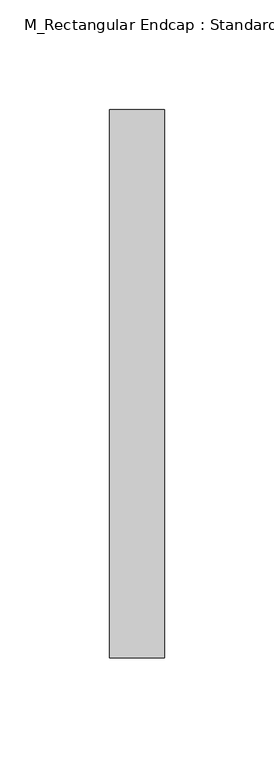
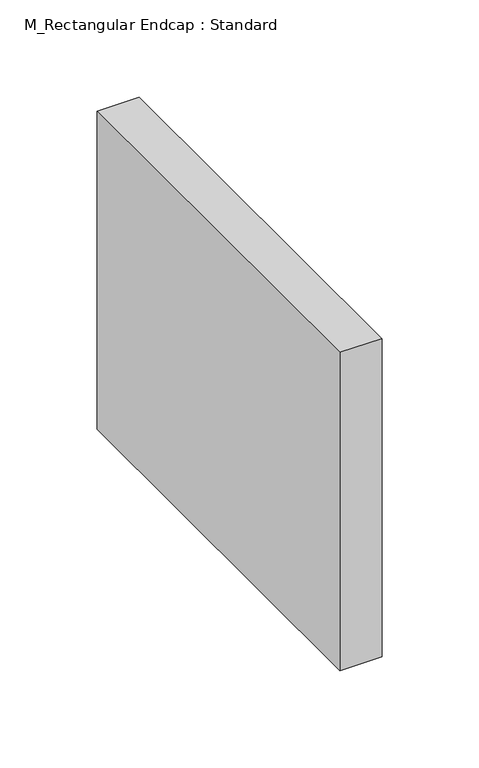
"""IFC4 building model written with IfcOpenShell, lengths in millimetres: duct fitting geometry, M_Rectangular Endcap : Standard."""

import ifcopenshell
import ifcopenshell.guid

model = None  # the IFC model being written
_history = None  # IfcOwnerHistory: only IFC2X3 demands one
_inside = {}  # id of a spatial element -> (the spatial element, [elements in it])
_under = {}  # id of a project, library or spatial element -> (it, [spatial elements below it])
_declared = {}  # id of a project -> (the project, [libraries it declares])
_typed = {}  # id of a type object -> (the type object, [elements of that type])
_made_of = {}  # id of a material, layer set ... -> (it, [elements and type objects made of it])


def new_model(schema):
    """Start an empty IFC model of exactly this schema.

    Asked for "IFC4X3", IfcOpenShell would pick the latest addendum, in which some entities
    have other attributes; the version numbers below select the first issue.
    IFC2X3 requires an IfcOwnerHistory on every rooted entity: one is made here for all.
    """
    global model, _history
    if schema == "IFC4X3":
        model = ifcopenshell.file(schema_version=(4, 3, 0, 0))
    else:
        model = ifcopenshell.file(schema=schema)
    _inside.clear()
    _under.clear()
    _declared.clear()
    _typed.clear()
    _made_of.clear()
    _history = None
    if model.schema == "IFC2X3":
        org = make("IfcOrganization", Name="unknown")
        user = make(
            "IfcPersonAndOrganization",
            ThePerson=make("IfcPerson", FamilyName="unknown"),
            TheOrganization=org,
        )
        app = make(
            "IfcApplication",
            ApplicationDeveloper=org,
            Version="unknown",
            ApplicationFullName="unknown",
            ApplicationIdentifier="unknown",
        )
        _history = make(
            "IfcOwnerHistory",
            OwningUser=user,
            OwningApplication=app,
            ChangeAction="ADDED",
            CreationDate=0,
        )
    return model


def make(cls, **values):
    """One entity of the class cls with the attributes given. An attribute that is None is left unset."""
    return model.create_entity(
        cls, **{name: value for name, value in values.items() if value is not None}
    )


def rooted(cls, **values):
    """An entity with a GlobalId (a new one), such as an element, a storey or a relation."""
    return make(cls, GlobalId=ifcopenshell.guid.new(), OwnerHistory=_history, **values)


def si_unit(unit_type, name, prefix=None):
    """IfcSIUnit, for example si_unit("LENGTHUNIT", "METRE", prefix="MILLI")."""
    return make("IfcSIUnit", UnitType=unit_type, Prefix=prefix, Name=name)


def assignment(units):
    """IfcUnitAssignment: the units of a project."""
    return None if units is None else make("IfcUnitAssignment", Units=units)


def point(xyz):
    """IfcCartesianPoint."""
    return None if xyz is None else make("IfcCartesianPoint", Coordinates=xyz)


def direction(xyz):
    """IfcDirection."""
    return None if xyz is None else make("IfcDirection", DirectionRatios=xyz)


def frame(location, z_axis=None, x_axis=None):
    """IfcAxis2Placement3D, a coordinate frame: its origin and axes. An axis left out is left unset."""
    return make(
        "IfcAxis2Placement3D",
        Location=point(location),
        Axis=direction(z_axis),
        RefDirection=direction(x_axis),
    )


def origin():
    """The frame at (0, 0, 0) with its axes left unset."""
    return frame((0.0, 0.0, 0.0))


def place(relative_to, where):
    """IfcLocalPlacement: puts the frame where relative to a parent placement (None: the world)."""
    return make(
        "IfcLocalPlacement", PlacementRelTo=relative_to, RelativePlacement=where
    )


def context(
    kind, dimensions, precision=None, world=None, true_north=None, identifier=None
):
    """IfcGeometricRepresentationContext, for example the 3D "Model" context."""
    return make(
        "IfcGeometricRepresentationContext",
        ContextIdentifier=identifier,
        ContextType=kind,
        CoordinateSpaceDimension=dimensions,
        Precision=precision,
        WorldCoordinateSystem=world,
        TrueNorth=true_north,
    )


def project(units=None, contexts=None):
    """IfcProject with its units and contexts."""
    return rooted(
        "IfcProject",
        Name="project",
        RepresentationContexts=contexts,
        UnitsInContext=assignment(units),
    )


def spatial(cls, under=None, at=None, **own):
    """A site, building, storey or space (cls), placed at a placement, below another one or the project."""
    s = rooted(cls, ObjectPlacement=at, **own)
    if under is not None:
        _under.setdefault(under.id(), (under, []))[1].append(s)
    return s


def polyline(points):
    """IfcPolyline through the points."""
    return make("IfcPolyline", Points=[point(p) for p in points])


def outline(outer, holes=None, kind="AREA"):
    """IfcArbitraryClosedProfileDef: a profile drawn as a closed curve; with holes, ...WithVoids."""
    if holes is None:
        return make("IfcArbitraryClosedProfileDef", ProfileType=kind, OuterCurve=outer)
    return make(
        "IfcArbitraryProfileDefWithVoids",
        ProfileType=kind,
        OuterCurve=outer,
        InnerCurves=holes,
    )


def extrude(swept, where, along, depth):
    """IfcExtrudedAreaSolid: the profile swept, set in the frame where, extruded along a direction by depth."""
    return make(
        "IfcExtrudedAreaSolid",
        SweptArea=swept,
        Position=where,
        ExtrudedDirection=direction(along),
        Depth=depth,
    )


def shape(context_of_items, identifier, shape_type, items):
    """IfcShapeRepresentation: the items that make up one representation, for example the "Body"."""
    return make(
        "IfcShapeRepresentation",
        ContextOfItems=context_of_items,
        RepresentationIdentifier=identifier,
        RepresentationType=shape_type,
        Items=items,
    )


def source(mapping_origin, context_of_items, identifier, shape_type, items):
    """IfcRepresentationMap: a shape defined once, which mapped items show again and again."""
    return make(
        "IfcRepresentationMap",
        MappingOrigin=mapping_origin,
        MappedRepresentation=shape(context_of_items, identifier, shape_type, items),
    )


def transform(
    local_origin,
    x_axis=None,
    y_axis=None,
    z_axis=None,
    scale=None,
    scale2=None,
    scale3=None,
    uniform=True,
):
    """IfcCartesianTransformationOperator3D, or its non-uniform kind. x_axis, y_axis, z_axis: its Axis1, 2, 3."""
    if uniform:
        return make(
            "IfcCartesianTransformationOperator3D",
            Axis1=direction(x_axis),
            Axis2=direction(y_axis),
            LocalOrigin=point(local_origin),
            Scale=scale,
            Axis3=direction(z_axis),
        )
    return make(
        "IfcCartesianTransformationOperator3DnonUniform",
        Axis1=direction(x_axis),
        Axis2=direction(y_axis),
        LocalOrigin=point(local_origin),
        Scale=scale,
        Axis3=direction(z_axis),
        Scale2=scale2,
        Scale3=scale3,
    )


def mapped(mapping_source, mapping_target):
    """IfcMappedItem: shows the shape of a source again, moved by a transform."""
    return make(
        "IfcMappedItem", MappingSource=mapping_source, MappingTarget=mapping_target
    )


def made_of(thing, what):
    """Note that an element or type object is made of a material, layer set ...; save() writes the relation."""
    if what is not None:
        _made_of.setdefault(what.id(), (what, []))[1].append(thing)
    return thing


def element(
    cls,
    number,
    at=None,
    inside=None,
    cuts=None,
    type_object=None,
    material=None,
    context=None,
    identifier="Body",
    shape_type=None,
    held_by="IfcProductDefinitionShape",
    body=None,
    shapes=None,
    **own,
):
    """One element of the class cls, such as IfcWall. Its Tag is "e" and its number.

    at: its placement. inside: the storey or other place that contains it. cuts: it is an
    opening in that element (IfcRelVoidsElement). A single representation is given by context,
    identifier, shape_type and body (its items); several are given by shapes. held_by: the class
    of the entity that holds the representations. save() writes the other relations.
    """
    e = rooted(cls, Tag="e%d" % number, ObjectPlacement=at, **own)
    if body is not None:
        shapes = [shape(context, identifier, shape_type, body)]
    if shapes is not None:
        e.Representation = make(held_by, Representations=shapes)
    if inside is not None:
        _inside.setdefault(inside.id(), (inside, []))[1].append(e)
    if cuts is not None:
        rooted(
            "IfcRelVoidsElement", RelatingBuildingElement=cuts, RelatedOpeningElement=e
        )
    if type_object is not None:
        _typed.setdefault(type_object.id(), (type_object, []))[1].append(e)
    return made_of(e, material)


def aggregate(whole, parts):
    """IfcRelAggregates: a whole, such as a stair, and the parts it consists of."""
    return rooted("IfcRelAggregates", RelatingObject=whole, RelatedObjects=parts)


def save(model, path):
    """Write the relations noted so far, then the file.

    IfcRelAggregates (storeys below a building ...), IfcRelContainedInSpatialStructure (elements
    in a storey), IfcRelDefinesByType, IfcRelAssociatesMaterial and IfcRelDeclares: one each for
    every whole, place, type object, material and project.
    """
    for whole, parts in _under.values():
        aggregate(whole, parts)
    for where, things in _inside.values():
        rooted(
            "IfcRelContainedInSpatialStructure",
            RelatedElements=things,
            RelatingStructure=where,
        )
    for kind, things in _typed.values():
        rooted("IfcRelDefinesByType", RelatedObjects=things, RelatingType=kind)
    for what, things in _made_of.values():
        rooted("IfcRelAssociatesMaterial", RelatedObjects=things, RelatingMaterial=what)
    for by, libraries in _declared.values():
        rooted("IfcRelDeclares", RelatingContext=by, RelatedDefinitions=libraries)
    model.write(path)


def m_rectangular_endcap_standard_ecd4e432(model_context):
    return source(origin(), model_context, "Body", "SweptSolid", [
        extrude(outline(polyline([(0.0, -125.0), (0.0, 125.0), (25.0, 125.0), (25.0, -125.0), (0.0, -125.0)])), frame((0.0, 0.0, -100.0), z_axis=(0.0, 0.0, 1.0), x_axis=(1.0, 0.0, 0.0)), (0.0, 0.0, 1.0), 200.0),
        extrude(outline(polyline([(0.0, -125.0), (0.0, 125.0), (25.0, 125.0), (25.0, -125.0), (0.0, -125.0)])), frame((0.0, 0.0, -100.0), z_axis=(0.0, 0.0, 1.0), x_axis=(1.0, 0.0, 0.0)), (0.0, 0.0, 1.0), 200.0),
        extrude(outline(polyline([(0.0, -125.0), (0.0, 125.0), (25.0, 125.0), (25.0, -125.0), (0.0, -125.0)])), frame((0.0, 0.0, -100.0), z_axis=(0.0, 0.0, 1.0), x_axis=(1.0, 0.0, 0.0)), (0.0, 0.0, 1.0), 200.0),
    ])


if __name__ == "__main__":
    model = new_model("IFC4")
    model_context = context("Model", 3, world=origin())
    ifc_project = project(units=[si_unit("LENGTHUNIT", "METRE", prefix="MILLI")], contexts=[model_context])
    site = spatial("IfcSite", under=ifc_project)
    building = spatial("IfcBuilding", under=site)
    placement = place(None, origin())
    m_rectangular_endcap_standard_shape = m_rectangular_endcap_standard_ecd4e432(model_context)
    element("IfcDuctFitting", 1, ObjectType="M_Rectangular Endcap : Standard", at=placement, inside=building, context=model_context, shape_type="MappedRepresentation", body=[
        mapped(m_rectangular_endcap_standard_shape, transform((0.0, 0.0, 0.0), x_axis=(1.0, 0.0, 0.0), y_axis=(0.0, 1.0, 0.0), z_axis=(0.0, 0.0, 1.0))),
    ])
    save(model, "model.ifc")
